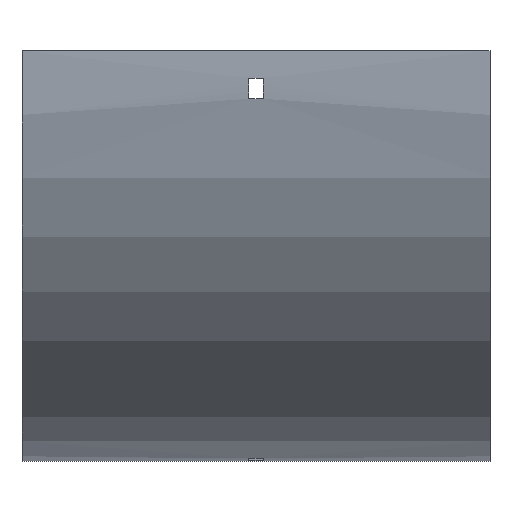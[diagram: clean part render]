
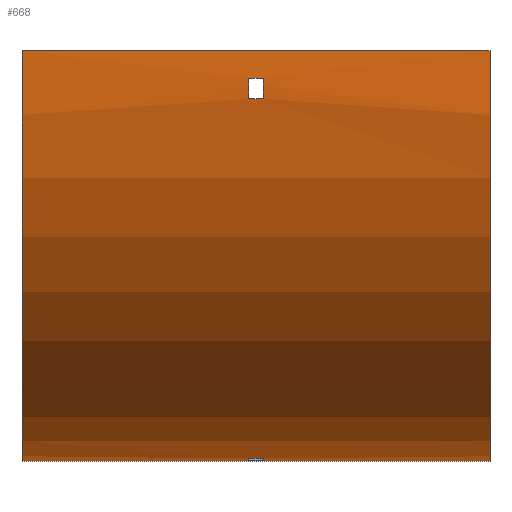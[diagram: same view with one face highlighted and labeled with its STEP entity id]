
A CAD part, front view. The second image highlights one B-rep face of the part: STEP entity #668.
In plain terms, the highlighted cylindrical face has radius 179 mm (diameter 358 mm), a partial arc.
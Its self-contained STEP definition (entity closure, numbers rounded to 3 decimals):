
#12 = LINE ( 'NONE', #256, #1695 ) ;
#16 = DIRECTION ( 'NONE',  ( -1., 0., 0. ) ) ;
#25 = AXIS2_PLACEMENT_3D ( 'NONE', #1266, #614, #1133 ) ;
#31 = VERTEX_POINT ( 'NONE', #1093 ) ;
#50 = CARTESIAN_POINT ( 'NONE',  ( -3.25, 79., -177.764 ) ) ;
#57 = DIRECTION ( 'NONE',  ( 0., 0., -1. ) ) ;
#65 = CARTESIAN_POINT ( 'NONE',  ( -102., 100., 0. ) ) ;
#80 = ORIENTED_EDGE ( 'NONE', *, *, #597, .F. ) ;
#129 = CARTESIAN_POINT ( 'NONE',  ( -3.25, 88., -178.597 ) ) ;
#134 = VERTEX_POINT ( 'NONE', #129 ) ;
#153 = DIRECTION ( 'NONE',  ( 0., 0., 1. ) ) ;
#199 = VERTEX_POINT ( 'NONE', #817 ) ;
#256 = CARTESIAN_POINT ( 'NONE',  ( 102., -78.597, -12. ) ) ;
#267 = VERTEX_POINT ( 'NONE', #536 ) ;
#269 = AXIS2_PLACEMENT_3D ( 'NONE', #524, #1039, #1559 ) ;
#279 = FACE_BOUND ( 'NONE', #662, .T. ) ;
#283 = ORIENTED_EDGE ( 'NONE', *, *, #985, .F. ) ;
#285 = VERTEX_POINT ( 'NONE', #799 ) ;
#306 = DIRECTION ( 'NONE',  ( 1., 0., 0. ) ) ;
#329 = VECTOR ( 'NONE', #1371, 1000. ) ;
#344 = EDGE_CURVE ( 'NONE', #134, #981, #596, .T. ) ;
#348 = DIRECTION ( 'NONE',  ( -1., 0., 0. ) ) ;
#379 = ORIENTED_EDGE ( 'NONE', *, *, #1584, .T. ) ;
#395 = DIRECTION ( 'NONE',  ( -1., 0., 0. ) ) ;
#401 = CIRCLE ( 'NONE', #456, 179. ) ;
#413 = DIRECTION ( 'NONE',  ( 1., 0., 0. ) ) ;
#434 = CIRCLE ( 'NONE', #1308, 179. ) ;
#450 = CARTESIAN_POINT ( 'NONE',  ( 102., -77.764, -21. ) ) ;
#456 = AXIS2_PLACEMENT_3D ( 'NONE', #1141, #1659, #889 ) ;
#479 = VECTOR ( 'NONE', #1512, 1000. ) ;
#489 = EDGE_CURVE ( 'NONE', #285, #1548, #401, .T. ) ;
#524 = CARTESIAN_POINT ( 'NONE',  ( -3.25, 100., 0. ) ) ;
#528 = EDGE_CURVE ( 'NONE', #981, #199, #755, .T. ) ;
#536 = CARTESIAN_POINT ( 'NONE',  ( 102., -79., 0. ) ) ;
#540 = CARTESIAN_POINT ( 'NONE',  ( 3.25, 88., -178.597 ) ) ;
#544 = EDGE_CURVE ( 'NONE', #267, #1590, #1691, .T. ) ;
#550 = DIRECTION ( 'NONE',  ( 1., 0., 0. ) ) ;
#567 = ORIENTED_EDGE ( 'NONE', *, *, #1547, .T. ) ;
#596 = LINE ( 'NONE', #1620, #479 ) ;
#597 = EDGE_CURVE ( 'NONE', #199, #812, #1199, .T. ) ;
#614 = DIRECTION ( 'NONE',  ( 1., 0., 0. ) ) ;
#618 = DIRECTION ( 'NONE',  ( 0., 0., -1. ) ) ;
#645 = CYLINDRICAL_SURFACE ( 'NONE', #649, 179. ) ;
#649 = AXIS2_PLACEMENT_3D ( 'NONE', #789, #395, #153 ) ;
#662 = EDGE_LOOP ( 'NONE', ( #567, #760, #1217, #1449 ) ) ;
#668 = ADVANCED_FACE ( 'NONE', ( #1323, #279, #1568 ), #645, .T. ) ;
#689 = VERTEX_POINT ( 'NONE', #912 ) ;
#713 = CARTESIAN_POINT ( 'NONE',  ( 102., 100., -179. ) ) ;
#730 = LINE ( 'NONE', #1219, #1007 ) ;
#734 = CIRCLE ( 'NONE', #269, 179. ) ;
#755 = CIRCLE ( 'NONE', #1394, 179. ) ;
#757 = CIRCLE ( 'NONE', #1395, 179. ) ;
#760 = ORIENTED_EDGE ( 'NONE', *, *, #489, .T. ) ;
#771 = ORIENTED_EDGE ( 'NONE', *, *, #544, .F. ) ;
#772 = ORIENTED_EDGE ( 'NONE', *, *, #1339, .F. ) ;
#789 = CARTESIAN_POINT ( 'NONE',  ( 102., 100., 0. ) ) ;
#799 = CARTESIAN_POINT ( 'NONE',  ( -3.25, -77.764, -21. ) ) ;
#812 = VERTEX_POINT ( 'NONE', #50 ) ;
#817 = CARTESIAN_POINT ( 'NONE',  ( 3.25, 79., -177.764 ) ) ;
#864 = LINE ( 'NONE', #1392, #1502 ) ;
#866 = DIRECTION ( 'NONE',  ( 0., 0., 1. ) ) ;
#889 = DIRECTION ( 'NONE',  ( 0., 0., 1. ) ) ;
#912 = CARTESIAN_POINT ( 'NONE',  ( -102., -79., 0. ) ) ;
#959 = DIRECTION ( 'NONE',  ( -1., 0., 0. ) ) ;
#981 = VERTEX_POINT ( 'NONE', #540 ) ;
#985 = EDGE_CURVE ( 'NONE', #812, #134, #734, .T. ) ;
#1007 = VECTOR ( 'NONE', #959, 1000. ) ;
#1022 = ORIENTED_EDGE ( 'NONE', *, *, #528, .F. ) ;
#1039 = DIRECTION ( 'NONE',  ( 1., 0., 0. ) ) ;
#1058 = EDGE_CURVE ( 'NONE', #1548, #1067, #12, .T. ) ;
#1067 = VERTEX_POINT ( 'NONE', #1321 ) ;
#1081 = CARTESIAN_POINT ( 'NONE',  ( 3.25, -77.764, -21. ) ) ;
#1093 = CARTESIAN_POINT ( 'NONE',  ( -102., 100., -179. ) ) ;
#1097 = LINE ( 'NONE', #450, #329 ) ;
#1133 = DIRECTION ( 'NONE',  ( 0., 0., -1. ) ) ;
#1141 = CARTESIAN_POINT ( 'NONE',  ( -3.25, 100., 0. ) ) ;
#1153 = EDGE_CURVE ( 'NONE', #689, #31, #434, .T. ) ;
#1199 = LINE ( 'NONE', #1297, #1527 ) ;
#1207 = EDGE_CURVE ( 'NONE', #1067, #1428, #757, .T. ) ;
#1217 = ORIENTED_EDGE ( 'NONE', *, *, #1058, .T. ) ;
#1219 = CARTESIAN_POINT ( 'NONE',  ( 102., -79., 0. ) ) ;
#1238 = CARTESIAN_POINT ( 'NONE',  ( -3.25, -78.597, -12. ) ) ;
#1266 = CARTESIAN_POINT ( 'NONE',  ( 102., 100., 0. ) ) ;
#1287 = ORIENTED_EDGE ( 'NONE', *, *, #1153, .T. ) ;
#1297 = CARTESIAN_POINT ( 'NONE',  ( 102., 79., -177.764 ) ) ;
#1308 = AXIS2_PLACEMENT_3D ( 'NONE', #65, #550, #57 ) ;
#1320 = ORIENTED_EDGE ( 'NONE', *, *, #344, .F. ) ;
#1321 = CARTESIAN_POINT ( 'NONE',  ( 3.25, -78.597, -12. ) ) ;
#1323 = FACE_OUTER_BOUND ( 'NONE', #1436, .T. ) ;
#1339 = EDGE_CURVE ( 'NONE', #1590, #31, #864, .T. ) ;
#1371 = DIRECTION ( 'NONE',  ( -1., 0., 0. ) ) ;
#1392 = CARTESIAN_POINT ( 'NONE',  ( 102., 100., -179. ) ) ;
#1394 = AXIS2_PLACEMENT_3D ( 'NONE', #1521, #348, #866 ) ;
#1395 = AXIS2_PLACEMENT_3D ( 'NONE', #1478, #306, #618 ) ;
#1428 = VERTEX_POINT ( 'NONE', #1081 ) ;
#1436 = EDGE_LOOP ( 'NONE', ( #1287, #772, #771, #379 ) ) ;
#1437 = DIRECTION ( 'NONE',  ( -1., 0., 0. ) ) ;
#1449 = ORIENTED_EDGE ( 'NONE', *, *, #1207, .T. ) ;
#1478 = CARTESIAN_POINT ( 'NONE',  ( 3.25, 100., 0. ) ) ;
#1502 = VECTOR ( 'NONE', #16, 1000. ) ;
#1512 = DIRECTION ( 'NONE',  ( 1., 0., 0. ) ) ;
#1521 = CARTESIAN_POINT ( 'NONE',  ( 3.25, 100., 0. ) ) ;
#1527 = VECTOR ( 'NONE', #1437, 1000. ) ;
#1547 = EDGE_CURVE ( 'NONE', #1428, #285, #1097, .T. ) ;
#1548 = VERTEX_POINT ( 'NONE', #1238 ) ;
#1559 = DIRECTION ( 'NONE',  ( 0., 1., 0. ) ) ;
#1568 = FACE_BOUND ( 'NONE', #1614, .T. ) ;
#1584 = EDGE_CURVE ( 'NONE', #267, #689, #730, .T. ) ;
#1590 = VERTEX_POINT ( 'NONE', #713 ) ;
#1614 = EDGE_LOOP ( 'NONE', ( #283, #80, #1022, #1320 ) ) ;
#1620 = CARTESIAN_POINT ( 'NONE',  ( 102., 88., -178.597 ) ) ;
#1659 = DIRECTION ( 'NONE',  ( -1., 0., 0. ) ) ;
#1691 = CIRCLE ( 'NONE', #25, 179. ) ;
#1695 = VECTOR ( 'NONE', #413, 1000. ) ;
